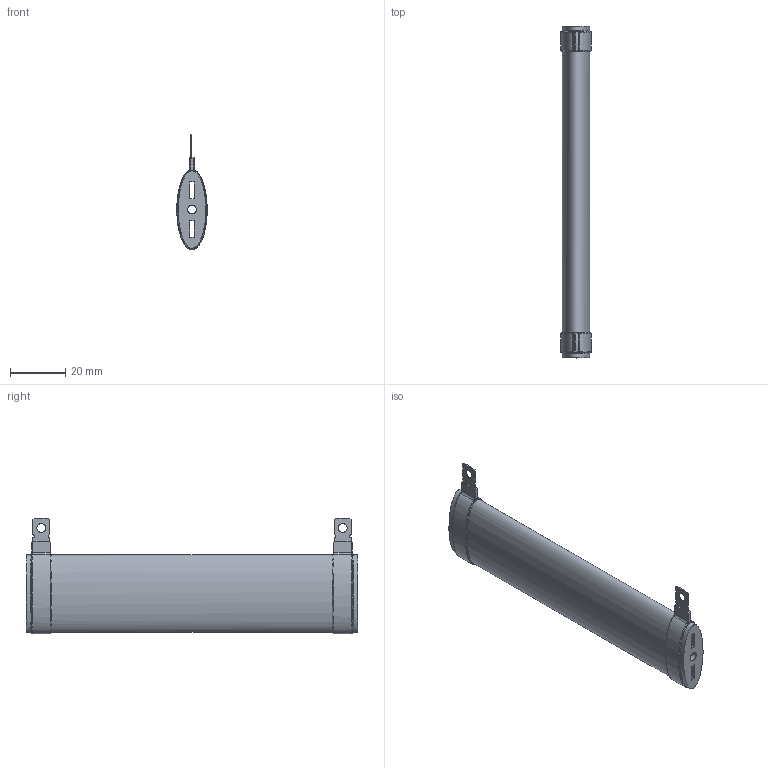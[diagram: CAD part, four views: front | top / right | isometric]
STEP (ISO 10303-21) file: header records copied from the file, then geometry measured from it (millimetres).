
FILE_DESCRIPTION(/* description */ (''),/* implementation_level */ '2;1');
FILE_NAME(/* name */ 'C:\_Vault\Dati\CATALOGO\RCE\RCE 68.stp',/* time_stamp */ '2014-03-19T17:07:16+01:00',/* author */ ('stefano'),/* organization */ (''),/* preprocessor_version */ 'ST-DEVELOPER v15.2',/* originating_system */ 'Autodesk Inventor 2014',/* authorisation */ '');
FILE_SCHEMA (('AUTOMOTIVE_DESIGN { 1 0 10303 214 3 1 1 }'));
Length unit declared in the file: millimetre
Products named in the file (1): RCE 68
Bounding box: 10.99 x 120 x 41.72 mm (x, y, z)
Volume: 23802.4 mm3; surface area: 13187.6 mm2
Topology: 1 solids, 1 shells, 84 faces, 222 edges, 142 vertices
Faces by surface type: plane 30, cylinder 23, bspline 23, torus 8
Full cylindrical faces by diameter (mm): 3.1 x1, 3.2 x2
Entity records: 4443 total; most frequent: CARTESIAN_POINT 2351, ORIENTED_EDGE 438, DIRECTION 356, EDGE_CURVE 219, VERTEX_POINT 142, AXIS2_PLACEMENT_3D 136, EDGE_LOOP 99, STYLED_ITEM 85
